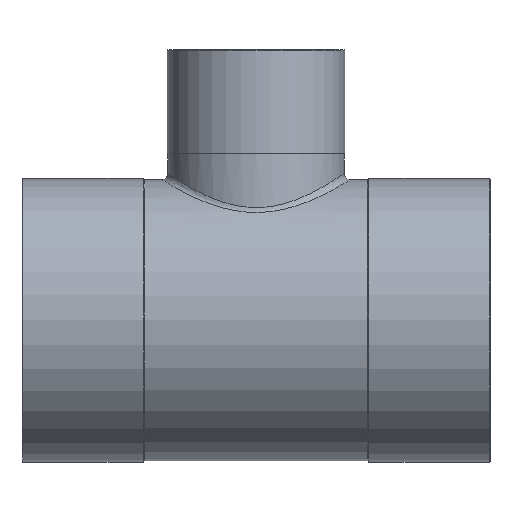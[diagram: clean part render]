
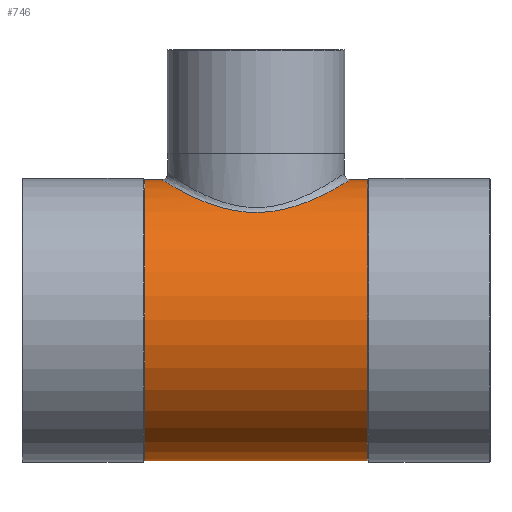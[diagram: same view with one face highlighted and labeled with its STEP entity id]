
A CAD part, top view. The second image highlights one B-rep face of the part: STEP entity #746.
In plain terms, the highlighted cylindrical face has radius 46.25 mm (diameter 92.5 mm), a partial arc.
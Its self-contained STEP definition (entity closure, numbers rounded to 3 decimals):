
#133=CARTESIAN_POINT('',(36.68,46.25,0.0));
#134=VERTEX_POINT('',#133);
#143=CARTESIAN_POINT('',(36.68,-46.25,0.));
#144=VERTEX_POINT('',#143);
#145=CARTESIAN_POINT('',(36.68,0.0,0.0));
#146=DIRECTION('',(1.0,0.0,0.0));
#147=DIRECTION('',(0.0,1.0,0.0));
#148=AXIS2_PLACEMENT_3D('',#145,#146,#147);
#149=CIRCLE('',#148,46.25);
#150=EDGE_CURVE('',#134,#144,#149,.T.);
#177=CARTESIAN_POINT('',(-36.68,46.25,0.0));
#178=VERTEX_POINT('',#177);
#194=CARTESIAN_POINT('',(-36.68,-46.25,0.));
#195=VERTEX_POINT('',#194);
#202=CARTESIAN_POINT('',(-36.68,0.0,0.0));
#203=DIRECTION('',(1.0,0.0,0.0));
#204=DIRECTION('',(0.0,1.0,0.0));
#205=AXIS2_PLACEMENT_3D('',#202,#203,#204);
#206=CIRCLE('',#205,46.25);
#207=EDGE_CURVE('',#178,#195,#206,.T.);
#698=CARTESIAN_POINT('',(18.34,0.0,0.0));
#699=DIRECTION('',(1.0,0.0,0.0));
#700=DIRECTION('',(0.0,1.0,0.0));
#701=AXIS2_PLACEMENT_3D('',#698,#699,#700);
#702=CYLINDRICAL_SURFACE('',#701,46.25);
#703=CARTESIAN_POINT('',(-31.075,46.25,0.));
#704=VERTEX_POINT('',#703);
#705=CARTESIAN_POINT('',(-36.68,46.25,0.0));
#706=DIRECTION('',(1.0,0.0,0.0));
#707=VECTOR('',#706,5.605);
#708=LINE('',#705,#707);
#709=EDGE_CURVE('',#178,#704,#708,.T.);
#710=ORIENTED_EDGE('',*,*,#709,.F.);
#711=ORIENTED_EDGE('',*,*,#207,.T.);
#712=CARTESIAN_POINT('',(36.68,-46.25,0.));
#713=DIRECTION('',(-1.0,0.0,0.0));
#714=VECTOR('',#713,73.36);
#715=LINE('',#712,#714);
#716=EDGE_CURVE('',#144,#195,#715,.T.);
#717=ORIENTED_EDGE('',*,*,#716,.F.);
#718=ORIENTED_EDGE('',*,*,#150,.F.);
#719=CARTESIAN_POINT('',(31.075,46.25,0.));
#720=VERTEX_POINT('',#719);
#721=CARTESIAN_POINT('',(31.075,46.25,0.));
#722=DIRECTION('',(1.0,0.0,0.0));
#723=VECTOR('',#722,5.605);
#724=LINE('',#721,#723);
#725=EDGE_CURVE('',#720,#134,#724,.T.);
#726=ORIENTED_EDGE('',*,*,#725,.F.);
#727=CARTESIAN_POINT('',(-31.075,46.25,0.));
#728=CARTESIAN_POINT('',(-31.075,46.25,6.614));
#729=CARTESIAN_POINT('',(-28.644,44.675,13.151));
#730=CARTESIAN_POINT('',(-21.127,40.697,22.465));
#731=CARTESIAN_POINT('',(-16.511,38.479,25.778));
#732=CARTESIAN_POINT('',(-6.709,35.78,29.376));
#733=CARTESIAN_POINT('',(-1.703,35.167,30.046));
#734=CARTESIAN_POINT('',(8.008,35.954,29.098));
#735=CARTESIAN_POINT('',(12.649,37.284,27.513));
#736=CARTESIAN_POINT('',(22.914,41.295,21.32));
#737=CARTESIAN_POINT('',(27.742,44.24,15.335));
#738=CARTESIAN_POINT('',(30.666,45.996,5.527));
#739=CARTESIAN_POINT('',(31.075,46.25,2.762));
#740=CARTESIAN_POINT('',(31.075,46.25,0.));
#741=B_SPLINE_CURVE_WITH_KNOTS('',3,(#727,#728,#729,#730,#731,#732,#733,#734,#735,#736,#737,#738,#739,#740),.UNSPECIFIED.,.F.,.U.,(4,2,2,2,2,2,4),(4.52,6.394,8.001,9.324,10.646,12.779,13.559),.UNSPECIFIED.);
#742=EDGE_CURVE('',#704,#720,#741,.T.);
#743=ORIENTED_EDGE('',*,*,#742,.F.);
#744=EDGE_LOOP('',(#710,#711,#717,#718,#726,#743));
#745=FACE_OUTER_BOUND('',#744,.T.);
#746=ADVANCED_FACE('',(#745),#702,.T.);
